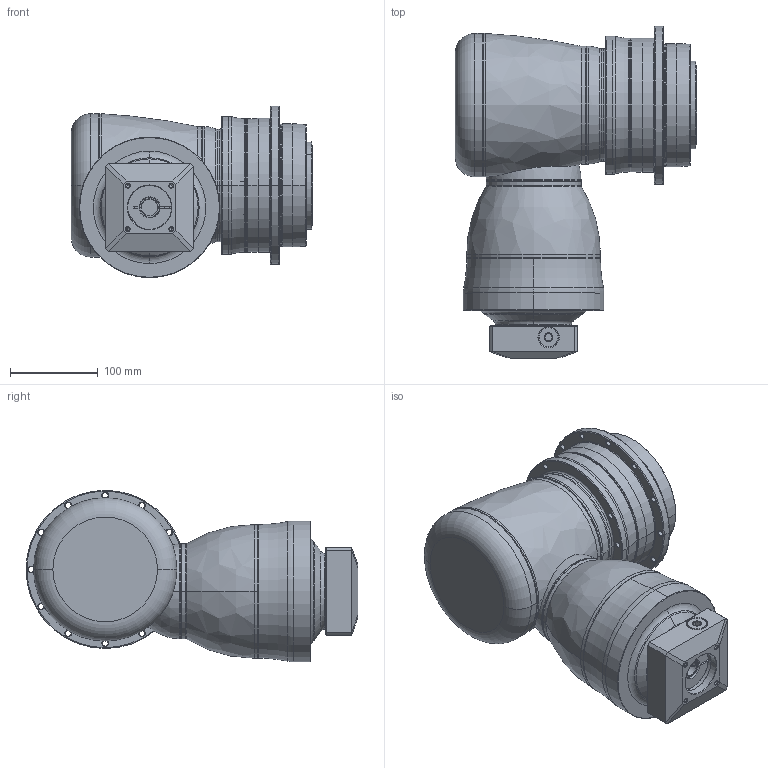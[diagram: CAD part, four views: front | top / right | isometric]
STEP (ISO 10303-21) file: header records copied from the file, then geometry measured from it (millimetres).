
FILE_DESCRIPTION((''),'2;1');
FILE_NAME('AHKB140_3ST_14-P0409410101_ASM','2016-12-13T',('d01943'),(''),'PRO/ENGINEER BY PARAMETRIC TECHNOLOGY CORPORATION, 2008410','PRO/ENGINEER BY PARAMETRIC TECHNOLOGY CORPORATION, 2008410','');
FILE_SCHEMA(('CONFIG_CONTROL_DESIGN'));
Length unit declared in the file: millimetre
Products named in the file (12): P1008500002; P1802500011; P0278500003; P0359500002; P1315500001; P1007500001; P1317500001; P0409410101; P0503400008; P0912400001; 21711416017; AHKB140_3ST_14-P0409410101_ASM
Assembly tree (11 placements, depth 2):
  AHKB140_3ST_14-P0409410101_ASM
    P1008500002
    P1802500011
    P0278500003
    P0359500002
    P1315500001
    P1007500001
    P1317500001
    P0409410101
    P0503400008
    P0912400001
    21711416017
Bounding box: 274.5 x 377.5 x 195 mm (x, y, z)
Volume: 5392000.6 mm3; surface area: 645216.7 mm2
Topology: 12 solids, 12 shells, 938 faces, 2101 edges, 1201 vertices
Faces by surface type: cylinder 343, cone 310, torus 130, plane 126, bspline 27, sphere 2
Entity records: 30709 total; most frequent: CARTESIAN_POINT 9445, DIRECTION 4911, ORIENTED_EDGE 4014, AXIS2_PLACEMENT_3D 2094, EDGE_CURVE 2007, VERTEX_POINT 1201, CIRCLE 1160, EDGE_LOOP 1108
